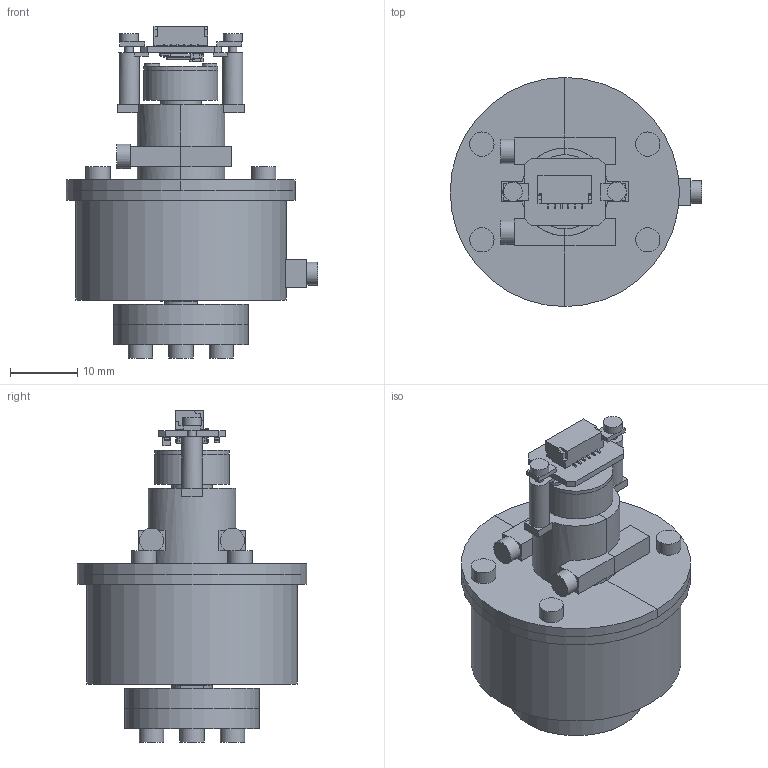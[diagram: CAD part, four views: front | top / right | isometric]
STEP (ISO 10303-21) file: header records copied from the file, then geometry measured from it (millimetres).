
FILE_DESCRIPTION(('Open CASCADE Model'),'2;1');
FILE_NAME('Open CASCADE Shape Model','2026-09-24T17:43:20',('Author'),( 'Open CASCADE'),'Open CASCADE STEP processor 7.8','Open CASCADE 7.8' ,'Unknown');
FILE_SCHEMA(('AUTOMOTIVE_DESIGN { 1 0 10303 214 1 1 1 1 }'));
Length unit declared in the file: millimetre
Products named in the file (59): Open CASCADE STEP translator 7.8 59; Open CASCADE STEP translator 7.8 59.1; Open CASCADE STEP translator 7.8 59.2; Open CASCADE STEP translator 7.8 59.3; Open CASCADE STEP translator 7.8 59.4; Open CASCADE STEP translator 7.8 59.5; Open CASCADE STEP translator 7.8 59.6; Open CASCADE STEP translator 7.8 59.7; Open CASCADE STEP translator 7.8 59.8; Open CASCADE STEP translator 7.8 59.9; Open CASCADE STEP translator 7.8 59.10; Open CASCADE STEP translator 7.8 59.11; Open CASCADE STEP translator 7.8 59.12; Open CASCADE STEP translator 7.8 59.13; Open CASCADE STEP translator 7.8 59.14; Open CASCADE STEP translator 7.8 59.15; Open CASCADE STEP translator 7.8 59.16; Open CASCADE STEP translator 7.8 59.17; Open CASCADE STEP translator 7.8 59.18; Open CASCADE STEP translator 7.8 59.19; Open CASCADE STEP translator 7.8 59.20; Open CASCADE STEP translator 7.8 59.21; Open CASCADE STEP translator 7.8 59.22; Open CASCADE STEP translator 7.8 59.23; Open CASCADE STEP translator 7.8 59.24; Open CASCADE STEP translator 7.8 59.25; Open CASCADE STEP translator 7.8 59.26; Open CASCADE STEP translator 7.8 59.27; Open CASCADE STEP translator 7.8 59.28; Open CASCADE STEP translator 7.8 59.29; Open CASCADE STEP translator 7.8 59.30; Open CASCADE STEP translator 7.8 59.31; Open CASCADE STEP translator 7.8 59.32; Open CASCADE STEP translator 7.8 59.33; Open CASCADE STEP translator 7.8 59.34; Open CASCADE STEP translator 7.8 59.35; Open CASCADE STEP translator 7.8 59.36; Open CASCADE STEP translator 7.8 59.37; Open CASCADE STEP translator 7.8 59.38; Open CASCADE STEP translator 7.8 59.39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
Assembly tree (58 placements, depth 2):
  Open CASCADE STEP translator 7.8 59
    Open CASCADE STEP translator 7.8 59.1
    Open CASCADE STEP translator 7.8 59.2
    Open CASCADE STEP translator 7.8 59.3
    Open CASCADE STEP translator 7.8 59.4
    Open CASCADE STEP translator 7.8 59.5
    Open CASCADE STEP translator 7.8 59.6
    Open CASCADE STEP translator 7.8 59.7
    Open CASCADE STEP translator 7.8 59.8
    Open CASCADE STEP translator 7.8 59.9
    Open CASCADE STEP translator 7.8 59.10
    Open CASCADE STEP translator 7.8 59.11
    Open CASCADE STEP translator 7.8 59.12
    Open CASCADE STEP translator 7.8 59.13
    Open CASCADE STEP translator 7.8 59.14
    Open CASCADE STEP translator 7.8 59.15
    Open CASCADE STEP translator 7.8 59.16
    Open CASCADE STEP translator 7.8 59.17
    Open CASCADE STEP translator 7.8 59.18
    Open CASCADE STEP translator 7.8 59.19
    Open CASCADE STEP translator 7.8 59.20
    Open CASCADE STEP translator 7.8 59.21
    Open CASCADE STEP translator 7.8 59.22
    Open CASCADE STEP translator 7.8 59.23
    Open CASCADE STEP translator 7.8 59.24
    Open CASCADE STEP translator 7.8 59.25
    Open CASCADE STEP translator 7.8 59.26
    Open CASCADE STEP translator 7.8 59.27
    Open CASCADE STEP translator 7.8 59.28
    Open CASCADE STEP translator 7.8 59.29
    Open CASCADE STEP translator 7.8 59.30
    Open CASCADE STEP translator 7.8 59.31
    Open CASCADE STEP translator 7.8 59.32
    Open CASCADE STEP translator 7.8 59.33
    Open CASCADE STEP translator 7.8 59.34
    Open CASCADE STEP translator 7.8 59.35
    Open CASCADE STEP translator 7.8 59.36
    Open CASCADE STEP translator 7.8 59.37
    Open CASCADE STEP translator 7.8 59.38
    Open CASCADE STEP translator 7.8 59.39
    Open CASCADE STEP translator 7.8 59.40
    Open CASCADE STEP translator 7.8 59.41
    Open CASCADE STEP translator 7.8 59.42
    Open CASCADE STEP translator 7.8 59.43
    Open CASCADE STEP translator 7.8 59.44
    Open CASCADE STEP translator 7.8 59.45
    Open CASCADE STEP translator 7.8 59.46
    Open CASCADE STEP translator 7.8 59.47
    Open CASCADE STEP translator 7.8 59.48
    Open CASCADE STEP translator 7.8 59.49
    Open CASCADE STEP translator 7.8 59.50
    Open CASCADE STEP translator 7.8 59.51
    Open CASCADE STEP translator 7.8 59.52
    Open CASCADE STEP translator 7.8 59.53
    Open CASCADE STEP translator 7.8 59.54
    Open CASCADE STEP translator 7.8 59.55
    Open CASCADE STEP translator 7.8 59.56
    Open CASCADE STEP translator 7.8 59.57
    Open CASCADE STEP translator 7.8 59.58
Bounding box: 37.3 x 34 x 49.24 mm (x, y, z)
Volume: 15103 mm3; surface area: 22953.9 mm2
Topology: 58 solids, 58 shells, 1308 faces, 3316 edges, 2171 vertices
Faces by surface type: plane 739, cylinder 360, bspline 197, cone 12
Full cylindrical faces by diameter (mm): 0.96 x3, 1 x2, 1.24 x2, 1.3 x4, 1.58 x1, 1.6 x10, 1.66 x11, 1.7 x4, 2.02 x1, 2.05 x1, 2.2 x16, 2.7 x1, 2.8 x2, 3 x2, 3.4 x1, 3.6 x10, 4.5 x1, 5.6 x1, 6 x3, 6.1 x1, 6.2 x4, 6.3 x2, 6.8 x1, 7 x1, 7.2 x1, 8.4 x2, 8.6 x3, 9 x1, 9.2 x1, 11 x2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
Entity records: 145724 total; most frequent: CARTESIAN_POINT 80661, DIRECTION 10956, LINE 6797, VECTOR 6797, ORIENTED_EDGE 6632, PCURVE 6632, DEFINITIONAL_REPRESENTATION 6632, EDGE_CURVE 3316
